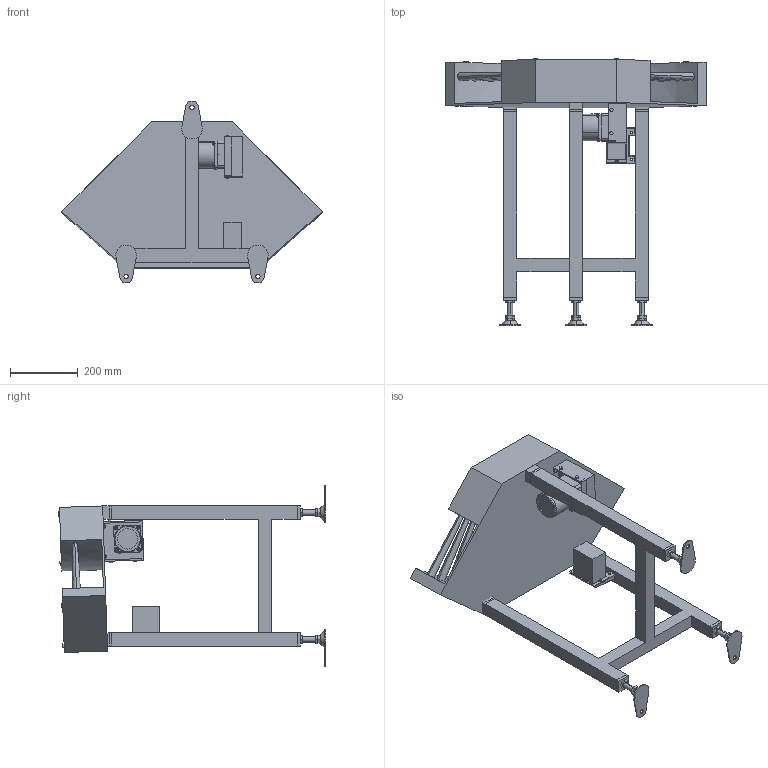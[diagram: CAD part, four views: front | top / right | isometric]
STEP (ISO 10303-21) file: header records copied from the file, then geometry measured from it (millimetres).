
FILE_DESCRIPTION( (''), '2;1');
FILE_NAME ('GT10H-303-200-L-K-75.stp','2025-02-17T15:46:59',(''),(''),'spGate 20.6.2 (****-****-****-****)','','');
FILE_SCHEMA (('AUTOMOTIVE_DESIGN'));
Length unit declared in the file: millimetre
Products named in the file (43): NewModel; TEMP_X_T-prt0; TEMP_X_T-prt1; TEMP_X_T-prt2; TEMP_X_T-prt3; TEMP_X_T-prt4; TEMP_X_T-prt5; TEMP_X_T-prt6; TEMP_X_T-prt7; TEMP_X_T-prt8; TEMP_X_T-prt9; TEMP_X_T-prt10; TEMP_X_T-prt11; TEMP_X_T-prt12; TEMP_X_T-prt13; TEMP_X_T-prt14; TEMP_X_T-prt15; TEMP_X_T-prt16; TEMP_X_T-prt17; TEMP_X_T-prt18; TEMP_X_T-prt19; TEMP_X_T-prt20; TEMP_X_T-prt21; TEMP_X_T-prt22; TEMP_X_T-prt23; TEMP_X_T-prt24; TEMP_X_T-prt25; TEMP_X_T-prt26; TEMP_X_T-prt27; TEMP_X_T-prt28; TEMP_X_T-prt29; TEMP_X_T-prt30; TEMP_X_T-prt31; TEMP_X_T-prt32; TEMP_X_T-prt33; TEMP_X_T-prt34; TEMP_X_T-prt35; TEMP_X_T-prt36; TEMP_X_T-prt37; TEMP_X_T-prt38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
Assembly tree (42 placements, depth 2):
  NewModel
    TEMP_X_T-prt0
    TEMP_X_T-prt1
    TEMP_X_T-prt2
    TEMP_X_T-prt3
    TEMP_X_T-prt4
    TEMP_X_T-prt5
    TEMP_X_T-prt6
    TEMP_X_T-prt7
    TEMP_X_T-prt8
    TEMP_X_T-prt9
    TEMP_X_T-prt10
    TEMP_X_T-prt11
    TEMP_X_T-prt12
    TEMP_X_T-prt13
    TEMP_X_T-prt14
    TEMP_X_T-prt15
    TEMP_X_T-prt16
    TEMP_X_T-prt17
    TEMP_X_T-prt18
    TEMP_X_T-prt19
    TEMP_X_T-prt20
    TEMP_X_T-prt21
    TEMP_X_T-prt22
    TEMP_X_T-prt23
    TEMP_X_T-prt24
    TEMP_X_T-prt25
    TEMP_X_T-prt26
    TEMP_X_T-prt27
    TEMP_X_T-prt28
    TEMP_X_T-prt29
    TEMP_X_T-prt30
    TEMP_X_T-prt31
    TEMP_X_T-prt32
    TEMP_X_T-prt33
    TEMP_X_T-prt34
    TEMP_X_T-prt35
    TEMP_X_T-prt36
    TEMP_X_T-prt37
    TEMP_X_T-prt38
    TEMP_X_T-prt39
    TEMP_X_T-prt40
    TEMP_X_T-prt41
Bounding box: 770.75 x 792.11 x 539 mm (x, y, z)
Volume: 20321697.7 mm3; surface area: 1653361.8 mm2
Topology: 42 solids, 42 shells, 1044 faces, 2448 edges, 1540 vertices
Faces by surface type: plane 595, cylinder 248, bspline 201
Entity records: 55150 total; most frequent: CARTESIAN_POINT 11240, ORIENTED_EDGE 4856, DIRECTION 4484, COLOUR_RGB 3514, PRESENTATION_STYLE_ASSIGNMENT 3514, STYLED_ITEM 3514, EDGE_CURVE 2428, DRAUGHTING_PRE_DEFINED_CURVE_FONT 2428
